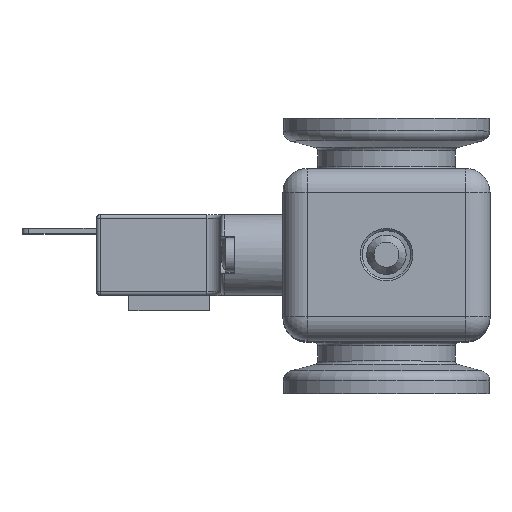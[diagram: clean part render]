
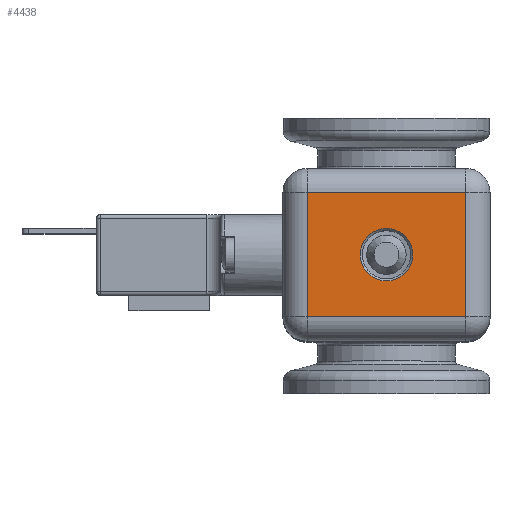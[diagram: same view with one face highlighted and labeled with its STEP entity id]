
A CAD part, top view. The second image highlights one B-rep face of the part: STEP entity #4438.
In plain terms, the highlighted planar face has unit normal (0, 0, 1) as drawn and (1, 0, 0) by its records, which use the part's own axes.
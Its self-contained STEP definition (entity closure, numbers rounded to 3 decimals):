
#3974=CIRCLE('',#15691,3.804);
#4438=ADVANCED_FACE('',(#5729,#5730),#5168,.F.);
#5168=PLANE('',#15692);
#5729=FACE_BOUND('',#6159,.T.);
#5730=FACE_BOUND('',#6160,.T.);
#6159=EDGE_LOOP('',(#7542));
#6160=EDGE_LOOP('',(#7543,#7544,#7545,#7546));
#7542=ORIENTED_EDGE('',*,*,#12189,.T.);
#7543=ORIENTED_EDGE('',*,*,#12190,.T.);
#7544=ORIENTED_EDGE('',*,*,#12191,.T.);
#7545=ORIENTED_EDGE('',*,*,#12192,.F.);
#7546=ORIENTED_EDGE('',*,*,#12193,.F.);
#10934=VERTEX_POINT('',#22075);
#10935=VERTEX_POINT('',#22077);
#10936=VERTEX_POINT('',#22078);
#10937=VERTEX_POINT('',#22080);
#10938=VERTEX_POINT('',#22082);
#12189=EDGE_CURVE('',#10934,#10934,#3974,.T.);
#12190=EDGE_CURVE('',#10935,#10936,#13723,.T.);
#12191=EDGE_CURVE('',#10936,#10937,#13724,.T.);
#12192=EDGE_CURVE('',#10938,#10937,#13725,.T.);
#12193=EDGE_CURVE('',#10935,#10938,#13726,.T.);
#13723=LINE('',#22076,#14681);
#13724=LINE('',#22079,#14682);
#13725=LINE('',#22081,#14683);
#13726=LINE('',#22083,#14684);
#14681=VECTOR('',#17247,1.);
#14682=VECTOR('',#17248,1.);
#14683=VECTOR('',#17249,1.);
#14684=VECTOR('',#17250,1.);
#15691=AXIS2_PLACEMENT_3D('',#22074,#17245,#17246);
#15692=AXIS2_PLACEMENT_3D('',#22084,#17251,#17252);
#17245=DIRECTION('',(-1.,0.,0.));
#17246=DIRECTION('',(0.,0.,1.));
#17247=DIRECTION('',(0.,1.,0.));
#17248=DIRECTION('',(0.,0.,1.));
#17249=DIRECTION('',(0.,1.,0.));
#17250=DIRECTION('',(0.,0.,1.));
#17251=DIRECTION('',(-1.,0.,0.));
#17252=DIRECTION('',(0.,0.,1.));
#22074=CARTESIAN_POINT('',(65.75,0.,0.));
#22075=CARTESIAN_POINT('',(65.75,0.,3.804));
#22076=CARTESIAN_POINT('',(65.75,9.,-11.5));
#22077=CARTESIAN_POINT('',(65.75,-9.,-11.5));
#22078=CARTESIAN_POINT('',(65.75,9.,-11.5));
#22079=CARTESIAN_POINT('',(65.75,9.,0.));
#22080=CARTESIAN_POINT('',(65.75,9.,11.5));
#22081=CARTESIAN_POINT('',(65.75,9.,11.5));
#22082=CARTESIAN_POINT('',(65.75,-9.,11.5));
#22083=CARTESIAN_POINT('',(65.75,-9.,0.));
#22084=CARTESIAN_POINT('',(65.75,9.,-11.5));
